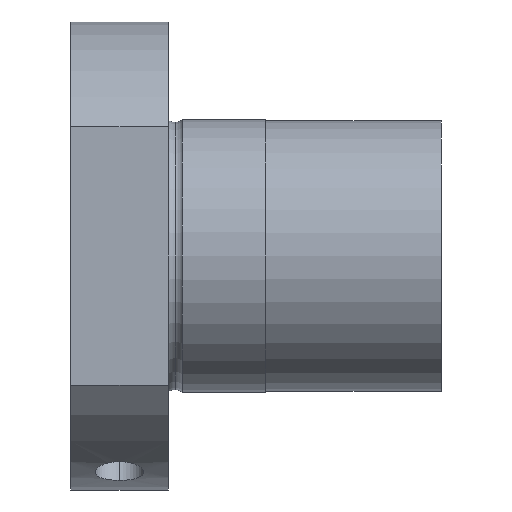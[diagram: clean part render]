
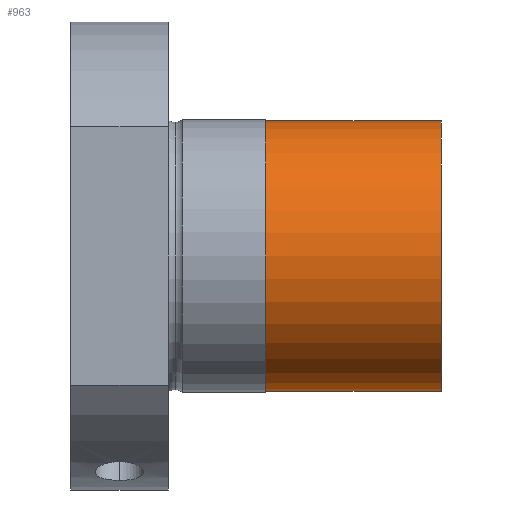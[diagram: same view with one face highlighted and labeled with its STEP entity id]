
A CAD part, front view. The second image highlights one B-rep face of the part: STEP entity #963.
In plain terms, the highlighted cylindrical face has radius 13.85 mm (diameter 27.7 mm), a partial arc.
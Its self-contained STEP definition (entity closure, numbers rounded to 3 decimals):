
#64 = VERTEX_POINT ( 'NONE', #2077 ) ;
#143 = ORIENTED_EDGE ( 'NONE', *, *, #3708, .T. ) ;
#424 = EDGE_CURVE ( 'NONE', #1967, #64, #2487, .T. ) ;
#693 = CARTESIAN_POINT ( 'NONE',  ( -26.78, 0., 13.85 ) ) ;
#963 = ADVANCED_FACE ( 'NONE', ( #4157 ), #1732, .T. ) ;
#1001 = CIRCLE ( 'NONE', #3301, 13.85 ) ;
#1002 = EDGE_LOOP ( 'NONE', ( #1098, #1676, #143, #1851 ) ) ;
#1098 = ORIENTED_EDGE ( 'NONE', *, *, #424, .F. ) ;
#1466 = AXIS2_PLACEMENT_3D ( 'NONE', #2302, #1578, #4133 ) ;
#1578 = DIRECTION ( 'NONE',  ( -1., 0., 0. ) ) ;
#1594 = CARTESIAN_POINT ( 'NONE',  ( -8.78, 0., 0. ) ) ;
#1600 = EDGE_CURVE ( 'NONE', #1967, #3108, #3116, .T. ) ;
#1666 = CARTESIAN_POINT ( 'NONE',  ( -26.78, 0., 0. ) ) ;
#1676 = ORIENTED_EDGE ( 'NONE', *, *, #1600, .T. ) ;
#1732 = CYLINDRICAL_SURFACE ( 'NONE', #1466, 13.85 ) ;
#1767 = CARTESIAN_POINT ( 'NONE',  ( -61.309, 0., -13.85 ) ) ;
#1851 = ORIENTED_EDGE ( 'NONE', *, *, #2221, .F. ) ;
#1952 = DIRECTION ( 'NONE',  ( 0., 0., 1. ) ) ;
#1967 = VERTEX_POINT ( 'NONE', #2129 ) ;
#2024 = DIRECTION ( 'NONE',  ( 0., 0., 1. ) ) ;
#2077 = CARTESIAN_POINT ( 'NONE',  ( -26.78, 0., -13.85 ) ) ;
#2129 = CARTESIAN_POINT ( 'NONE',  ( -8.78, 0., -13.85 ) ) ;
#2221 = EDGE_CURVE ( 'NONE', #64, #4553, #1001, .T. ) ;
#2302 = CARTESIAN_POINT ( 'NONE',  ( -61.309, 0., 0. ) ) ;
#2487 = LINE ( 'NONE', #1767, #2935 ) ;
#2596 = AXIS2_PLACEMENT_3D ( 'NONE', #1594, #4153, #1952 ) ;
#2846 = CARTESIAN_POINT ( 'NONE',  ( -61.309, 0., 13.85 ) ) ;
#2935 = VECTOR ( 'NONE', #4327, 1000. ) ;
#3108 = VERTEX_POINT ( 'NONE', #3109 ) ;
#3109 = CARTESIAN_POINT ( 'NONE',  ( -8.78, 0., 13.85 ) ) ;
#3116 = CIRCLE ( 'NONE', #2596, 13.85 ) ;
#3301 = AXIS2_PLACEMENT_3D ( 'NONE', #1666, #4228, #2024 ) ;
#3316 = VECTOR ( 'NONE', #3571, 1000. ) ;
#3374 = LINE ( 'NONE', #2846, #3316 ) ;
#3571 = DIRECTION ( 'NONE',  ( -1., 0., 0. ) ) ;
#3708 = EDGE_CURVE ( 'NONE', #3108, #4553, #3374, .T. ) ;
#4133 = DIRECTION ( 'NONE',  ( 0., 0., 1. ) ) ;
#4153 = DIRECTION ( 'NONE',  ( -1., 0., 0. ) ) ;
#4157 = FACE_OUTER_BOUND ( 'NONE', #1002, .T. ) ;
#4228 = DIRECTION ( 'NONE',  ( -1., 0., 0. ) ) ;
#4327 = DIRECTION ( 'NONE',  ( -1., 0., 0. ) ) ;
#4553 = VERTEX_POINT ( 'NONE', #693 ) ;
